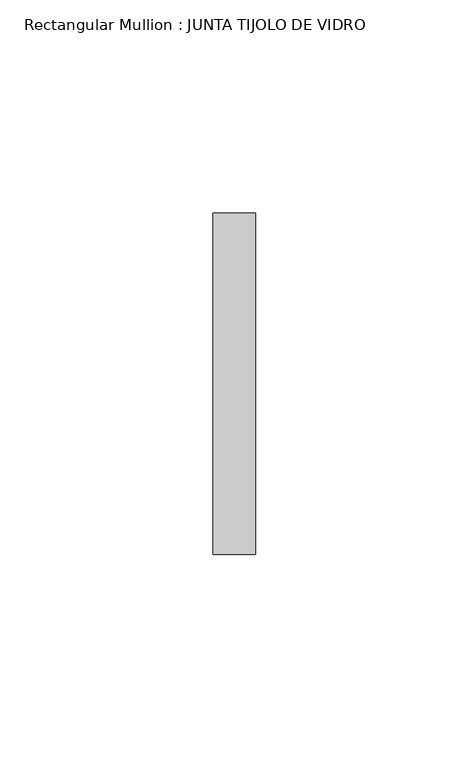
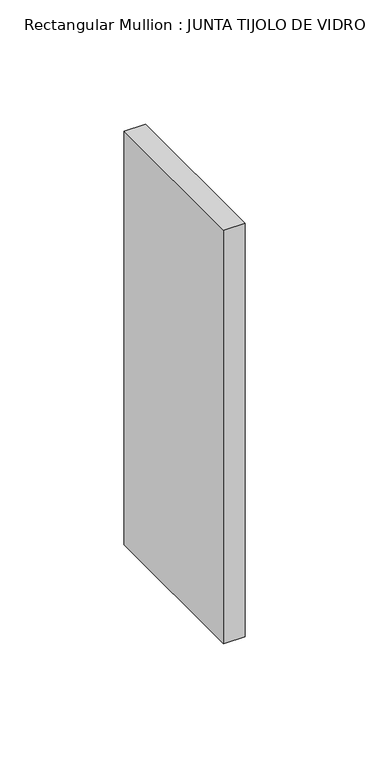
"""IFC4 building model written with IfcOpenShell, lengths in millimetres: member geometry, Rectangular Mullion : JUNTA TIJOLO DE VIDRO."""

from ifc_helpers import new_model, si_unit, frame, origin, place, context, project, spatial, polyline, outline, extrude, source, transform, mapped, element, save


def rectangular_mullion_junta_tijolo_de_vidro_f51e90fd(model_context):
    return source(origin(), model_context, "Body", "SweptSolid", [
        extrude(outline(polyline([(5.0, 40.0), (5.0, -40.0), (-5.0, -40.0), (-5.0, 40.0), (5.0, 40.0)])), frame((0.0, 0.0, -203.1818182), z_axis=(0.0, 0.0, 1.0), x_axis=(1.0, 0.0, 0.0)), (0.0, 0.0, 1.0), 203.1818182),
    ])


if __name__ == "__main__":
    model = new_model("IFC4")
    model_context = context("Model", 3, world=origin())
    ifc_project = project(units=[si_unit("LENGTHUNIT", "METRE", prefix="MILLI")], contexts=[model_context])
    site = spatial("IfcSite", under=ifc_project)
    building = spatial("IfcBuilding", under=site)
    placement = place(None, origin())
    rectangular_mullion_junta_tijolo_de_vidro_shape = rectangular_mullion_junta_tijolo_de_vidro_f51e90fd(model_context)
    element("IfcMember", 1, ObjectType="Rectangular Mullion : JUNTA TIJOLO DE VIDRO", at=placement, inside=building, context=model_context, shape_type="MappedRepresentation", body=[
        mapped(rectangular_mullion_junta_tijolo_de_vidro_shape, transform((0.0, 0.0, 0.0), x_axis=(1.0, 0.0, 0.0), y_axis=(0.0, 1.0, 0.0), z_axis=(0.0, 0.0, 1.0))),
    ])
    save(model, "model.ifc")
